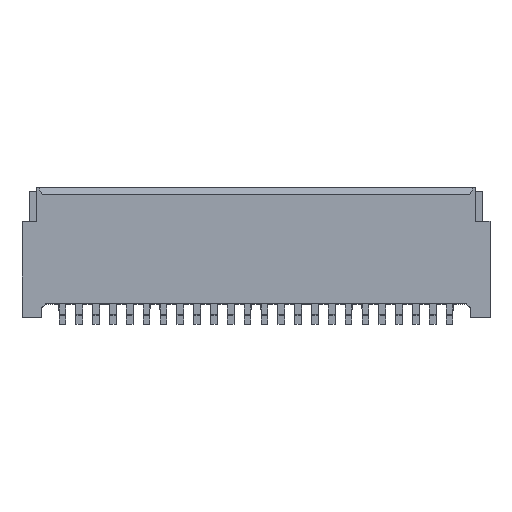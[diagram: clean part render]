
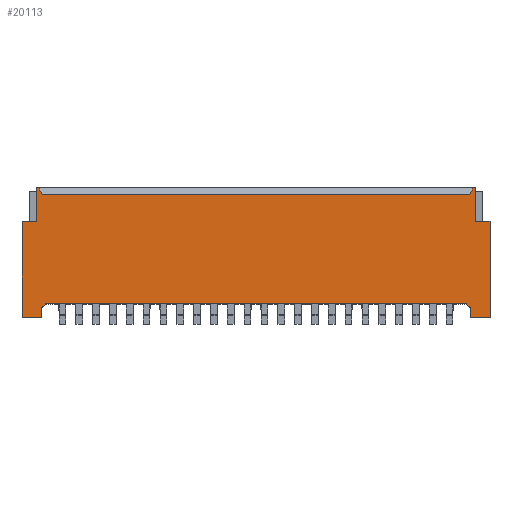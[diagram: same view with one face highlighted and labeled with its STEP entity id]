
A CAD part, top view. The second image highlights one B-rep face of the part: STEP entity #20113.
In plain terms, the highlighted planar face has unit normal (0, 0, 1).
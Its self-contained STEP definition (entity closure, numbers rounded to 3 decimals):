
#77 = EDGE_CURVE ( 'NONE', #1679, #5126, #3573, .T. ) ;
#152 = ORIENTED_EDGE ( 'NONE', *, *, #7928, .F. ) ;
#185 = VECTOR ( 'NONE', #3505, 1000. ) ;
#521 = CARTESIAN_POINT ( 'NONE',  ( 1.35, -0.2, 1.45 ) ) ;
#1018 = VECTOR ( 'NONE', #21382, 1000. ) ;
#1679 = VERTEX_POINT ( 'NONE', #2891 ) ;
#1811 = CARTESIAN_POINT ( 'NONE',  ( 1.51, -1.925, 1.45 ) ) ;
#1834 = DIRECTION ( 'NONE',  ( 0., -1., 0. ) ) ;
#1852 = CARTESIAN_POINT ( 'NONE',  ( -11.95, -3.85, 1.45 ) ) ;
#1993 = CARTESIAN_POINT ( 'NONE',  ( -11.95, -1.925, 1.45 ) ) ;
#1995 = EDGE_LOOP ( 'NONE', ( #15587, #152, #8856, #12084, #14629, #19094, #8268, #3495, #18912, #11042, #12868, #11661, #15292, #20730, #18648, #15654, #16553, #12060 ) ) ;
#2095 = EDGE_CURVE ( 'NONE', #19611, #3959, #10135, .T. ) ;
#2167 = VERTEX_POINT ( 'NONE', #12983 ) ;
#2358 = VECTOR ( 'NONE', #17568, 1000. ) ;
#2757 = VECTOR ( 'NONE', #5999, 1000. ) ;
#2824 = VECTOR ( 'NONE', #7971, 1000. ) ;
#2891 = CARTESIAN_POINT ( 'NONE',  ( 1.51, -1., 1.45 ) ) ;
#3106 = LINE ( 'NONE', #11120, #1018 ) ;
#3220 = LINE ( 'NONE', #1811, #11223 ) ;
#3313 = LINE ( 'NONE', #19797, #21699 ) ;
#3322 = CARTESIAN_POINT ( 'NONE',  ( -5.75, -3.85, 1.45 ) ) ;
#3495 = ORIENTED_EDGE ( 'NONE', *, *, #10355, .F. ) ;
#3505 = DIRECTION ( 'NONE',  ( -1., 0., 0. ) ) ;
#3573 = LINE ( 'NONE', #16954, #15325 ) ;
#3712 = LINE ( 'NONE', #3322, #17617 ) ;
#3939 = CARTESIAN_POINT ( 'NONE',  ( -11.95, -3.85, 1.45 ) ) ;
#3959 = VERTEX_POINT ( 'NONE', #20306 ) ;
#3989 = CARTESIAN_POINT ( 'NONE',  ( -11.26, -3.45, 1.45 ) ) ;
#4695 = DIRECTION ( 'NONE',  ( -1., 0., 0. ) ) ;
#4796 = LINE ( 'NONE', #8373, #15781 ) ;
#4879 = EDGE_CURVE ( 'NONE', #21744, #14553, #3106, .T. ) ;
#4935 = VECTOR ( 'NONE', #16701, 1000. ) ;
#5126 = VERTEX_POINT ( 'NONE', #15201 ) ;
#5377 = CARTESIAN_POINT ( 'NONE',  ( -11.36, -3.85, 1.45 ) ) ;
#5411 = AXIS2_PLACEMENT_3D ( 'NONE', #3939, #14193, #21012 ) ;
#5596 = CARTESIAN_POINT ( 'NONE',  ( -4.25, 0., 1.45 ) ) ;
#5752 = EDGE_CURVE ( 'NONE', #21675, #6024, #7336, .T. ) ;
#5999 = DIRECTION ( 'NONE',  ( -1., 0., 0. ) ) ;
#6024 = VERTEX_POINT ( 'NONE', #13501 ) ;
#6262 = CARTESIAN_POINT ( 'NONE',  ( -11.51, -1., 1.45 ) ) ;
#6627 = LINE ( 'NONE', #7602, #8776 ) ;
#6843 = VERTEX_POINT ( 'NONE', #6262 ) ;
#7188 = EDGE_CURVE ( 'NONE', #5126, #14354, #19284, .T. ) ;
#7336 = LINE ( 'NONE', #11127, #2824 ) ;
#7494 = CARTESIAN_POINT ( 'NONE',  ( 1.375, -0.15, 1.45 ) ) ;
#7602 = CARTESIAN_POINT ( 'NONE',  ( -5.75, -1., 1.45 ) ) ;
#7928 = EDGE_CURVE ( 'NONE', #3959, #14553, #4796, .T. ) ;
#7971 = DIRECTION ( 'NONE',  ( 0., 1., 0. ) ) ;
#8268 = ORIENTED_EDGE ( 'NONE', *, *, #16708, .F. ) ;
#8373 = CARTESIAN_POINT ( 'NONE',  ( 1.36, -3.55, 1.45 ) ) ;
#8776 = VECTOR ( 'NONE', #19527, 1000. ) ;
#8856 = ORIENTED_EDGE ( 'NONE', *, *, #2095, .F. ) ;
#9258 = LINE ( 'NONE', #5596, #2358 ) ;
#9344 = CARTESIAN_POINT ( 'NONE',  ( -5.75, -0.2, 1.45 ) ) ;
#9581 = DIRECTION ( 'NONE',  ( -0.447, 0.894, 0. ) ) ;
#9786 = EDGE_CURVE ( 'NONE', #21180, #2167, #15723, .T. ) ;
#9816 = CARTESIAN_POINT ( 'NONE',  ( 1.51, 0., 1.45 ) ) ;
#9961 = EDGE_CURVE ( 'NONE', #19112, #19471, #18903, .T. ) ;
#10097 = DIRECTION ( 'NONE',  ( 1., 0., 0. ) ) ;
#10135 = LINE ( 'NONE', #19411, #13906 ) ;
#10355 = EDGE_CURVE ( 'NONE', #2167, #12909, #9258, .T. ) ;
#11042 = ORIENTED_EDGE ( 'NONE', *, *, #15926, .T. ) ;
#11120 = CARTESIAN_POINT ( 'NONE',  ( -5.75, -3.45, 1.45 ) ) ;
#11127 = CARTESIAN_POINT ( 'NONE',  ( -11.36, -1.925, 1.45 ) ) ;
#11223 = VECTOR ( 'NONE', #20709, 1000. ) ;
#11284 = EDGE_CURVE ( 'NONE', #19373, #21675, #3712, .T. ) ;
#11413 = EDGE_CURVE ( 'NONE', #6843, #21535, #6627, .T. ) ;
#11618 = CARTESIAN_POINT ( 'NONE',  ( -11.36, -3.55, 1.45 ) ) ;
#11661 = ORIENTED_EDGE ( 'NONE', *, *, #9961, .T. ) ;
#11789 = CARTESIAN_POINT ( 'NONE',  ( -11.95, -1., 1.45 ) ) ;
#12060 = ORIENTED_EDGE ( 'NONE', *, *, #18337, .T. ) ;
#12084 = ORIENTED_EDGE ( 'NONE', *, *, #13910, .F. ) ;
#12214 = VECTOR ( 'NONE', #4695, 1000. ) ;
#12473 = CARTESIAN_POINT ( 'NONE',  ( -11.51, 0., 1.45 ) ) ;
#12610 = DIRECTION ( 'NONE',  ( 0., 1., 0. ) ) ;
#12696 = CARTESIAN_POINT ( 'NONE',  ( 1.36, -3.85, 1.45 ) ) ;
#12755 = DIRECTION ( 'NONE',  ( 0., -1., 0. ) ) ;
#12868 = ORIENTED_EDGE ( 'NONE', *, *, #19105, .T. ) ;
#12909 = VERTEX_POINT ( 'NONE', #9816 ) ;
#12983 = CARTESIAN_POINT ( 'NONE',  ( 1.45, 0., 1.45 ) ) ;
#13501 = CARTESIAN_POINT ( 'NONE',  ( -11.36, -3.55, 1.45 ) ) ;
#13559 = EDGE_CURVE ( 'NONE', #19471, #6843, #18320, .T. ) ;
#13805 = VECTOR ( 'NONE', #12755, 1000. ) ;
#13906 = VECTOR ( 'NONE', #12610, 1000. ) ;
#13910 = EDGE_CURVE ( 'NONE', #14354, #19611, #20415, .T. ) ;
#14193 = DIRECTION ( 'NONE',  ( 0., 0., 1. ) ) ;
#14354 = VERTEX_POINT ( 'NONE', #16464 ) ;
#14553 = VERTEX_POINT ( 'NONE', #20619 ) ;
#14601 = CARTESIAN_POINT ( 'NONE',  ( 1.95, -1.925, 1.45 ) ) ;
#14629 = ORIENTED_EDGE ( 'NONE', *, *, #7188, .F. ) ;
#14668 = DIRECTION ( 'NONE',  ( 0., -1., 0. ) ) ;
#14746 = VECTOR ( 'NONE', #14668, 1000. ) ;
#15201 = CARTESIAN_POINT ( 'NONE',  ( 1.95, -1., 1.45 ) ) ;
#15292 = ORIENTED_EDGE ( 'NONE', *, *, #13559, .T. ) ;
#15325 = VECTOR ( 'NONE', #17020, 1000. ) ;
#15587 = ORIENTED_EDGE ( 'NONE', *, *, #4879, .T. ) ;
#15654 = ORIENTED_EDGE ( 'NONE', *, *, #11284, .T. ) ;
#15723 = LINE ( 'NONE', #7494, #19692 ) ;
#15781 = VECTOR ( 'NONE', #20284, 1000. ) ;
#15926 = EDGE_CURVE ( 'NONE', #21180, #18167, #20314, .T. ) ;
#16041 = CARTESIAN_POINT ( 'NONE',  ( -11.35, -0.2, 1.45 ) ) ;
#16085 = DIRECTION ( 'NONE',  ( 0.447, 0.894, 0. ) ) ;
#16464 = CARTESIAN_POINT ( 'NONE',  ( 1.95, -3.85, 1.45 ) ) ;
#16553 = ORIENTED_EDGE ( 'NONE', *, *, #5752, .T. ) ;
#16701 = DIRECTION ( 'NONE',  ( 0.707, 0.707, 0. ) ) ;
#16708 = EDGE_CURVE ( 'NONE', #12909, #1679, #3220, .T. ) ;
#16954 = CARTESIAN_POINT ( 'NONE',  ( -4.25, -1., 1.45 ) ) ;
#17020 = DIRECTION ( 'NONE',  ( 1., 0., 0. ) ) ;
#17093 = CARTESIAN_POINT ( 'NONE',  ( -4.25, -3.85, 1.45 ) ) ;
#17568 = DIRECTION ( 'NONE',  ( 1., 0., 0. ) ) ;
#17617 = VECTOR ( 'NONE', #10097, 1000. ) ;
#17779 = PLANE ( 'NONE',  #5411 ) ;
#17793 = CARTESIAN_POINT ( 'NONE',  ( -11.51, -1.925, 1.45 ) ) ;
#18167 = VERTEX_POINT ( 'NONE', #16041 ) ;
#18176 = CARTESIAN_POINT ( 'NONE',  ( -11.45, 0., 1.45 ) ) ;
#18320 = LINE ( 'NONE', #17793, #13805 ) ;
#18337 = EDGE_CURVE ( 'NONE', #6024, #21744, #19120, .T. ) ;
#18648 = ORIENTED_EDGE ( 'NONE', *, *, #21582, .T. ) ;
#18903 = LINE ( 'NONE', #20140, #12214 ) ;
#18912 = ORIENTED_EDGE ( 'NONE', *, *, #9786, .F. ) ;
#19094 = ORIENTED_EDGE ( 'NONE', *, *, #77, .F. ) ;
#19105 = EDGE_CURVE ( 'NONE', #18167, #19112, #3313, .T. ) ;
#19112 = VERTEX_POINT ( 'NONE', #18176 ) ;
#19120 = LINE ( 'NONE', #11618, #4935 ) ;
#19284 = LINE ( 'NONE', #14601, #14746 ) ;
#19373 = VERTEX_POINT ( 'NONE', #1852 ) ;
#19411 = CARTESIAN_POINT ( 'NONE',  ( 1.36, -1.925, 1.45 ) ) ;
#19471 = VERTEX_POINT ( 'NONE', #12473 ) ;
#19524 = FACE_OUTER_BOUND ( 'NONE', #1995, .T. ) ;
#19527 = DIRECTION ( 'NONE',  ( -1., 0., 0. ) ) ;
#19611 = VERTEX_POINT ( 'NONE', #12696 ) ;
#19692 = VECTOR ( 'NONE', #16085, 1000. ) ;
#19797 = CARTESIAN_POINT ( 'NONE',  ( -11.375, -0.15, 1.45 ) ) ;
#20113 = ADVANCED_FACE ( 'NONE', ( #19524 ), #17779, .T. ) ;
#20140 = CARTESIAN_POINT ( 'NONE',  ( -5.75, 0., 1.45 ) ) ;
#20226 = LINE ( 'NONE', #1993, #20491 ) ;
#20284 = DIRECTION ( 'NONE',  ( -0.707, 0.707, 0. ) ) ;
#20306 = CARTESIAN_POINT ( 'NONE',  ( 1.36, -3.55, 1.45 ) ) ;
#20314 = LINE ( 'NONE', #9344, #2757 ) ;
#20415 = LINE ( 'NONE', #17093, #185 ) ;
#20491 = VECTOR ( 'NONE', #1834, 1000. ) ;
#20619 = CARTESIAN_POINT ( 'NONE',  ( 1.26, -3.45, 1.45 ) ) ;
#20709 = DIRECTION ( 'NONE',  ( 0., -1., 0. ) ) ;
#20730 = ORIENTED_EDGE ( 'NONE', *, *, #11413, .T. ) ;
#21012 = DIRECTION ( 'NONE',  ( 1., 0., 0. ) ) ;
#21180 = VERTEX_POINT ( 'NONE', #521 ) ;
#21382 = DIRECTION ( 'NONE',  ( 1., 0., 0. ) ) ;
#21535 = VERTEX_POINT ( 'NONE', #11789 ) ;
#21582 = EDGE_CURVE ( 'NONE', #21535, #19373, #20226, .T. ) ;
#21675 = VERTEX_POINT ( 'NONE', #5377 ) ;
#21699 = VECTOR ( 'NONE', #9581, 1000. ) ;
#21744 = VERTEX_POINT ( 'NONE', #3989 ) ;
